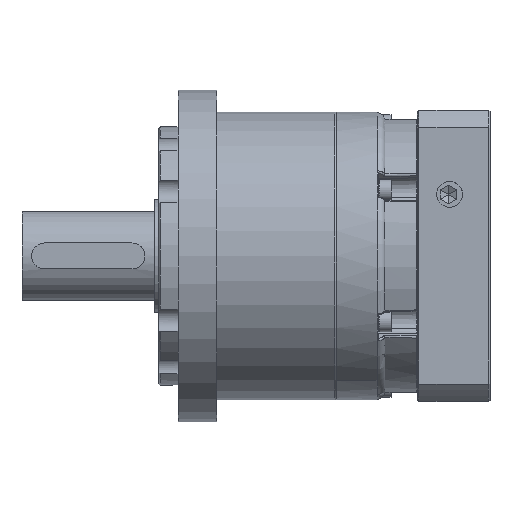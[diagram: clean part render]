
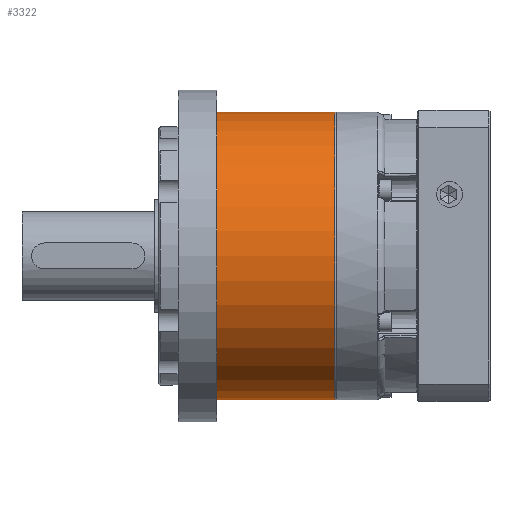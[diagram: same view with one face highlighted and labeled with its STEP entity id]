
A CAD part, top view. The second image highlights one B-rep face of the part: STEP entity #3322.
In plain terms, the highlighted cylindrical face has radius 89 mm (diameter 178 mm), a partial arc.
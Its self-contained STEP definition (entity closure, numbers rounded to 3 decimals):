
#3322 = ADVANCED_FACE ( 'NONE', ( #13549 ), #13763, .T. ) ;
#3363 = VERTEX_POINT ( 'NONE', #13524 ) ;
#3391 = VERTEX_POINT ( 'NONE', #13862 ) ;
#4286 = EDGE_CURVE ( 'NONE', #20722, #3363, #14095, .T. ) ;
#7776 = ORIENTED_EDGE ( 'NONE', *, *, #8273, .T. ) ;
#7792 = ORIENTED_EDGE ( 'NONE', *, *, #20931, .T. ) ;
#8273 = EDGE_CURVE ( 'NONE', #3363, #3391, #15663, .T. ) ;
#8275 = EDGE_LOOP ( 'NONE', ( #20883, #7792, #20921, #7776 ) ) ;
#12850 = AXIS2_PLACEMENT_3D ( 'NONE', #12995, #13003, #12903 ) ;
#12885 = CIRCLE ( 'NONE', #12850, 89. ) ;
#12903 = DIRECTION ( 'NONE',  ( 0., 0., 1. ) ) ;
#12995 = CARTESIAN_POINT ( 'NONE',  ( 0., 1., 0. ) ) ;
#13003 = DIRECTION ( 'NONE',  ( 0., 1., 0. ) ) ;
#13524 = CARTESIAN_POINT ( 'NONE',  ( 0., 77., 89. ) ) ;
#13549 = FACE_OUTER_BOUND ( 'NONE', #8275, .T. ) ;
#13550 = DIRECTION ( 'NONE',  ( 0., 1., 0. ) ) ;
#13571 = CARTESIAN_POINT ( 'NONE',  ( 0., 87.709, 0. ) ) ;
#13625 = DIRECTION ( 'NONE',  ( 0., 0., 1. ) ) ;
#13637 = AXIS2_PLACEMENT_3D ( 'NONE', #13571, #13550, #13625 ) ;
#13763 = CYLINDRICAL_SURFACE ( 'NONE', #13637, 89. ) ;
#13862 = CARTESIAN_POINT ( 'NONE',  ( 0., 77., -89. ) ) ;
#13957 = DIRECTION ( 'NONE',  ( 0., 1., 0. ) ) ;
#13999 = CARTESIAN_POINT ( 'NONE',  ( 0., 87.709, 89. ) ) ;
#14036 = VECTOR ( 'NONE', #13957, 1000. ) ;
#14095 = LINE ( 'NONE', #13999, #14036 ) ;
#15663 = CIRCLE ( 'NONE', #15681, 89. ) ;
#15676 = DIRECTION ( 'NONE',  ( 0., 0., -1. ) ) ;
#15677 = DIRECTION ( 'NONE',  ( 0., -1., 0. ) ) ;
#15678 = CARTESIAN_POINT ( 'NONE',  ( 0., 77., 0. ) ) ;
#15681 = AXIS2_PLACEMENT_3D ( 'NONE', #15678, #15677, #15676 ) ;
#16028 = CARTESIAN_POINT ( 'NONE',  ( 0., 1., -89. ) ) ;
#17526 = CARTESIAN_POINT ( 'NONE',  ( 0., 87.709, -89. ) ) ;
#17527 = LINE ( 'NONE', #17526, #17542 ) ;
#17541 = DIRECTION ( 'NONE',  ( 0., 1., 0. ) ) ;
#17542 = VECTOR ( 'NONE', #17541, 1000. ) ;
#19512 = CARTESIAN_POINT ( 'NONE',  ( 0., 1., 89. ) ) ;
#20386 = VERTEX_POINT ( 'NONE', #16028 ) ;
#20607 = EDGE_CURVE ( 'NONE', #20386, #3391, #17527, .T. ) ;
#20722 = VERTEX_POINT ( 'NONE', #19512 ) ;
#20883 = ORIENTED_EDGE ( 'NONE', *, *, #20607, .F. ) ;
#20921 = ORIENTED_EDGE ( 'NONE', *, *, #4286, .T. ) ;
#20931 = EDGE_CURVE ( 'NONE', #20386, #20722, #12885, .T. ) ;
